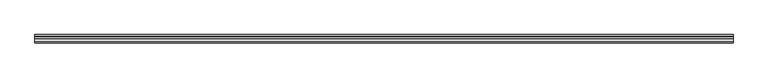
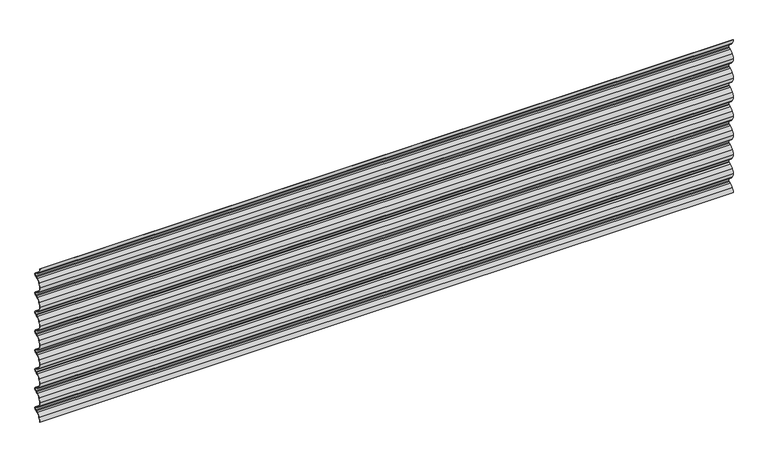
"""IFC4 building model written with IfcOpenShell, lengths in millimetres: plate geometry, Regolare Horizontal 712 : Regolare Horizontal 712."""

from ifc_helpers import new_model, si_unit, point, frame, frame_2d, origin, place, context, project, spatial, polyline, circle_curve, trimmed, segment, composite_curve, outline, extrude, source, transform, mapped, element, save


def plate_24f3a5ca(model_context):
    return source(origin(), model_context, "Body", "SweptSolid", [
        extrude(outline(composite_curve([segment(trimmed(circle_curve(frame_2d((38.4503244, 0.0)), 37.4503244), [point((6.5021495, 19.5407501))], [point((1.0, 0.0))], True, "CARTESIAN"), True, "CONTINUOUS"), segment(polyline([(1.0, 0.0), (0.0, 0.0)]), True, "CONTINUOUS"), segment(trimmed(circle_curve(frame_2d((38.4503244, 0.0)), 38.4503244), [point((0.0, 0.0))], [point((5.6490681, 20.062528))], False, "CARTESIAN"), True, "CONTINUOUS"), segment(trimmed(circle_curve(frame_2d((32.6206681, 3.5656452)), 31.6166783), [point((5.6490681, 20.062528))], [point((20.878867, 32.9211295))], False, "CARTESIAN"), True, "CONTINUOUS"), segment(polyline([(20.878867, 32.9211295), (28.0423924, 35.7903512), (31.4771017, 37.4367049)]), True, "CONTINUOUS"), segment(trimmed(circle_curve(frame_2d((28.0791236, 44.5257445)), 7.8613445), [point((31.4771017, 37.4367049))], [point((35.9404682, 44.5257445))], True, "CARTESIAN"), True, "CONTINUOUS"), segment(trimmed(circle_curve(frame_2d((28.0791236, 44.5257445)), 7.8613445), [point((35.9404682, 44.5257445))], [point((31.4771017, 51.6147842))], True, "CARTESIAN"), True, "CONTINUOUS"), segment(polyline([(31.4771017, 51.6147842), (28.0423924, 53.2611379), (20.878867, 56.1303596)]), True, "CONTINUOUS"), segment(trimmed(circle_curve(frame_2d((32.6206681, 85.4858438)), 31.6166783), [point((20.878867, 56.1303596))], [point((5.6490681, 68.9889611))], False, "CARTESIAN"), True, "CONTINUOUS"), segment(trimmed(circle_curve(frame_2d((38.4503244, 89.0514891)), 38.4503244), [point((5.6490681, 68.9889611))], [point((0.0, 89.0514891))], False, "CARTESIAN"), True, "CONTINUOUS"), segment(trimmed(circle_curve(frame_2d((38.4503244, 89.0514891)), 38.4503244), [point((0.0, 89.0514891))], [point((5.6490681, 109.1140171))], False, "CARTESIAN"), True, "CONTINUOUS"), segment(trimmed(circle_curve(frame_2d((32.6206681, 92.6171343)), 31.6166783), [point((5.6490681, 109.1140171))], [point((20.878867, 121.9726185))], False, "CARTESIAN"), True, "CONTINUOUS"), segment(polyline([(20.878867, 121.9726185), (28.0423924, 124.8418403), (31.4771017, 126.488194)]), True, "CONTINUOUS"), segment(trimmed(circle_curve(frame_2d((28.0791236, 133.5772336)), 7.8613445), [point((31.4771017, 126.488194))], [point((31.4771017, 140.6662733))], True, "CARTESIAN"), True, "CONTINUOUS"), segment(polyline([(31.4771017, 140.6662733), (28.0423924, 142.312627), (20.878867, 145.1818487)]), True, "CONTINUOUS"), segment(trimmed(circle_curve(frame_2d((32.6206681, 174.5373329)), 31.6166783), [point((20.878867, 145.1818487))], [point((5.6490681, 158.0404502))], False, "CARTESIAN"), True, "CONTINUOUS"), segment(trimmed(circle_curve(frame_2d((38.4503244, 178.1029782)), 38.4503244), [point((5.6490681, 158.0404502))], [point((0.0, 178.1029782))], False, "CARTESIAN"), True, "CONTINUOUS"), segment(trimmed(circle_curve(frame_2d((38.4503244, 178.1029782)), 38.4503244), [point((0.0, 178.1029782))], [point((5.6490681, 198.1655062))], False, "CARTESIAN"), True, "CONTINUOUS"), segment(trimmed(circle_curve(frame_2d((32.6206681, 181.6686234)), 31.6166783), [point((5.6490681, 198.1655062))], [point((20.878867, 211.0241076))], False, "CARTESIAN"), True, "CONTINUOUS"), segment(polyline([(20.878867, 211.0241076), (28.0423924, 213.8933293), (31.4771017, 215.5396831)]), True, "CONTINUOUS"), segment(trimmed(circle_curve(frame_2d((28.0791236, 222.6287227)), 7.8613445), [point((31.4771017, 215.5396831))], [point((31.4771017, 229.7177623))], True, "CARTESIAN"), True, "CONTINUOUS"), segment(polyline([(31.4771017, 229.7177623), (28.0423924, 231.3641161), (20.878867, 234.2333378)]), True, "CONTINUOUS"), segment(trimmed(circle_curve(frame_2d((32.6206681, 263.588822)), 31.6166783), [point((20.878867, 234.2333378))], [point((5.6490681, 247.0919392))], False, "CARTESIAN"), True, "CONTINUOUS"), segment(trimmed(circle_curve(frame_2d((38.4503244, 267.1544672)), 38.4503244), [point((5.6490681, 247.0919392))], [point((0.0, 267.1544672))], False, "CARTESIAN"), True, "CONTINUOUS"), segment(trimmed(circle_curve(frame_2d((38.4503244, 267.1544672)), 38.4503244), [point((0.0, 267.1544672))], [point((5.6490681, 287.2169952))], False, "CARTESIAN"), True, "CONTINUOUS"), segment(trimmed(circle_curve(frame_2d((32.6206681, 270.7201125)), 31.6166783), [point((5.6490681, 287.2169952))], [point((20.878867, 300.0755967))], False, "CARTESIAN"), True, "CONTINUOUS"), segment(polyline([(20.878867, 300.0755967), (28.0423924, 302.9448184), (31.4771017, 304.5911721)]), True, "CONTINUOUS"), segment(trimmed(circle_curve(frame_2d((28.0791236, 311.6802118)), 7.8613445), [point((31.4771017, 304.5911721))], [point((31.4771017, 318.7692514))], True, "CARTESIAN"), True, "CONTINUOUS"), segment(polyline([(31.4771017, 318.7692514), (28.0423924, 320.4156051), (20.878867, 323.2848269)]), True, "CONTINUOUS"), segment(trimmed(circle_curve(frame_2d((32.6206681, 352.6403111)), 31.6166783), [point((20.878867, 323.2848269))], [point((5.6490681, 336.1434283))], False, "CARTESIAN"), True, "CONTINUOUS"), segment(trimmed(circle_curve(frame_2d((38.4503244, 356.2059563)), 38.4503244), [point((5.6490681, 336.1434283))], [point((0.0, 356.2059563))], False, "CARTESIAN"), True, "CONTINUOUS"), segment(trimmed(circle_curve(frame_2d((38.4503244, 356.2059563)), 38.4503244), [point((0.0, 356.2059563))], [point((5.6490681, 376.2684843))], False, "CARTESIAN"), True, "CONTINUOUS"), segment(trimmed(circle_curve(frame_2d((32.6206681, 359.7716016)), 31.6166783), [point((5.6490681, 376.2684843))], [point((20.878867, 389.1270858))], False, "CARTESIAN"), True, "CONTINUOUS"), segment(polyline([(20.878867, 389.1270858), (28.0423924, 391.9963075), (31.4771017, 393.6426612)]), True, "CONTINUOUS"), segment(trimmed(circle_curve(frame_2d((28.0791236, 400.7317009)), 7.8613445), [point((31.4771017, 393.6426612))], [point((31.4771017, 407.8207405))], True, "CARTESIAN"), True, "CONTINUOUS"), segment(polyline([(31.4771017, 407.8207405), (28.0423924, 409.4670942), (20.878867, 412.3363159)]), True, "CONTINUOUS"), segment(trimmed(circle_curve(frame_2d((32.6206681, 441.6918002)), 31.6166783), [point((20.878867, 412.3363159))], [point((5.6490681, 425.1949174))], False, "CARTESIAN"), True, "CONTINUOUS"), segment(trimmed(circle_curve(frame_2d((38.4503244, 445.2574454)), 38.4503244), [point((5.6490681, 425.1949174))], [point((0.0, 445.2574454))], False, "CARTESIAN"), True, "CONTINUOUS"), segment(trimmed(circle_curve(frame_2d((38.4503244, 445.2574454)), 38.4503244), [point((0.0, 445.2574454))], [point((5.6490681, 465.3199734))], False, "CARTESIAN"), True, "CONTINUOUS"), segment(trimmed(circle_curve(frame_2d((32.6206681, 448.8230907)), 31.6166783), [point((5.6490681, 465.3199734))], [point((20.878867, 478.1785749))], False, "CARTESIAN"), True, "CONTINUOUS"), segment(polyline([(20.878867, 478.1785749), (28.0423924, 481.0477966), (31.4771017, 482.6941503)]), True, "CONTINUOUS"), segment(trimmed(circle_curve(frame_2d((28.0791236, 489.7831899)), 7.8613445), [point((31.4771017, 482.6941503))], [point((31.4771017, 496.8722296))], True, "CARTESIAN"), True, "CONTINUOUS"), segment(polyline([(31.4771017, 496.8722296), (28.0423924, 498.5185833), (20.878867, 501.387805)]), True, "CONTINUOUS"), segment(trimmed(circle_curve(frame_2d((32.6206681, 530.7432892)), 31.6166783), [point((20.878867, 501.387805))], [point((5.6490681, 514.2464065))], False, "CARTESIAN"), True, "CONTINUOUS"), segment(trimmed(circle_curve(frame_2d((38.4503244, 534.3089345)), 38.4503244), [point((5.6490681, 514.2464065))], [point((0.0, 534.3089345))], False, "CARTESIAN"), True, "CONTINUOUS"), segment(trimmed(circle_curve(frame_2d((38.4503244, 534.3089345)), 38.4503244), [point((0.0, 534.3089345))], [point((5.6490681, 554.3714625))], False, "CARTESIAN"), True, "CONTINUOUS"), segment(trimmed(circle_curve(frame_2d((32.6206681, 537.8745797)), 31.6166783), [point((5.6490681, 554.3714625))], [point((20.878867, 567.230064))], False, "CARTESIAN"), True, "CONTINUOUS"), segment(polyline([(20.878867, 567.230064), (28.0423924, 570.0992857), (31.4771017, 571.7456394)]), True, "CONTINUOUS"), segment(trimmed(circle_curve(frame_2d((28.0791236, 578.834679)), 7.8613445), [point((31.4771017, 571.7456394))], [point((31.4771017, 585.9237187))], True, "CARTESIAN"), True, "CONTINUOUS"), segment(polyline([(31.4771017, 585.9237187), (28.0423924, 587.5700724), (20.878867, 590.4392941)]), True, "CONTINUOUS"), segment(trimmed(circle_curve(frame_2d((32.6206681, 619.7947783)), 31.6166783), [point((20.878867, 590.4392941))], [point((5.6490681, 603.2978956))], False, "CARTESIAN"), True, "CONTINUOUS"), segment(trimmed(circle_curve(frame_2d((38.4503244, 623.3604236)), 38.4503244), [point((5.6490681, 603.2978956))], [point((0.0, 623.3604236))], False, "CARTESIAN"), True, "CONTINUOUS"), segment(trimmed(circle_curve(frame_2d((38.4503244, 623.3604236)), 38.4503244), [point((0.0, 623.3604236))], [point((5.6490681, 643.4229516))], False, "CARTESIAN"), True, "CONTINUOUS"), segment(trimmed(circle_curve(frame_2d((32.6206681, 626.9260688)), 31.6166783), [point((5.6490681, 643.4229516))], [point((20.878867, 656.281553))], False, "CARTESIAN"), True, "CONTINUOUS"), segment(polyline([(20.878867, 656.281553), (28.0423924, 659.1507748), (31.4771017, 660.7971285)]), True, "CONTINUOUS"), segment(trimmed(circle_curve(frame_2d((28.0791236, 667.8861681)), 7.8613445), [point((31.4771017, 660.7971285))], [point((31.4771017, 674.9752077))], True, "CARTESIAN"), True, "CONTINUOUS"), segment(polyline([(31.4771017, 674.9752077), (28.0423924, 676.6215615), (20.878867, 679.4907832)]), True, "CONTINUOUS"), segment(trimmed(circle_curve(frame_2d((32.6206681, 708.8462674)), 31.6166783), [point((20.878867, 679.4907832))], [point((5.6490681, 692.3493846))], False, "CARTESIAN"), True, "CONTINUOUS"), segment(trimmed(circle_curve(frame_2d((38.4503244, 712.4119126)), 38.4503244), [point((5.6490681, 692.3493846))], [point((0.0, 712.4119126))], False, "CARTESIAN"), True, "CONTINUOUS"), segment(polyline([(0.0, 712.4119126), (1.0, 712.4119126)]), True, "CONTINUOUS"), segment(trimmed(circle_curve(frame_2d((38.4503244, 712.4119126)), 37.4503244), [point((1.0, 712.4119126))], [point((6.5021495, 692.8711625))], True, "CARTESIAN"), True, "CONTINUOUS"), segment(trimmed(circle_curve(frame_2d((32.6206681, 708.8462674)), 30.6166783), [point((6.5021495, 692.8711625))], [point((21.2504634, 680.4191776))], True, "CARTESIAN"), True, "CONTINUOUS"), segment(polyline([(21.2504634, 680.4191776), (28.4448583, 677.5375917), (31.9093405, 675.8769669)]), True, "CONTINUOUS"), segment(trimmed(circle_curve(frame_2d((28.0791236, 667.8861681)), 8.8613445), [point((31.9093405, 675.8769669))], [point((31.9093405, 659.8953693))], False, "CARTESIAN"), True, "CONTINUOUS"), segment(polyline([(31.9093405, 659.8953693), (28.4448583, 658.2347446), (21.2504634, 655.3531587)]), True, "CONTINUOUS"), segment(trimmed(circle_curve(frame_2d((32.6206681, 626.9260688)), 30.6166783), [point((21.2504634, 655.3531587))], [point((6.5021495, 642.9011737))], True, "CARTESIAN"), True, "CONTINUOUS"), segment(trimmed(circle_curve(frame_2d((38.4503244, 623.3604236)), 37.4503244), [point((6.5021495, 642.9011737))], [point((1.0, 623.3604236))], True, "CARTESIAN"), True, "CONTINUOUS"), segment(trimmed(circle_curve(frame_2d((38.4503244, 623.3604236)), 37.4503244), [point((1.0, 623.3604236))], [point((6.5021495, 603.8196734))], True, "CARTESIAN"), True, "CONTINUOUS"), segment(trimmed(circle_curve(frame_2d((32.6206681, 619.7947783)), 30.6166783), [point((6.5021495, 603.8196734))], [point((21.2504634, 591.3676885))], True, "CARTESIAN"), True, "CONTINUOUS"), segment(polyline([(21.2504634, 591.3676885), (28.4448583, 588.4861026), (31.9093405, 586.8254778)]), True, "CONTINUOUS"), segment(trimmed(circle_curve(frame_2d((28.0791236, 578.834679)), 8.8613445), [point((31.9093405, 586.8254778))], [point((31.9093405, 570.8438802))], False, "CARTESIAN"), True, "CONTINUOUS"), segment(polyline([(31.9093405, 570.8438802), (28.4448583, 569.1832555), (21.2504634, 566.3016696)]), True, "CONTINUOUS"), segment(trimmed(circle_curve(frame_2d((32.6206681, 537.8745797)), 30.6166783), [point((21.2504634, 566.3016696))], [point((6.5021495, 553.8496846))], True, "CARTESIAN"), True, "CONTINUOUS"), segment(trimmed(circle_curve(frame_2d((38.4503244, 534.3089345)), 37.4503244), [point((6.5021495, 553.8496846))], [point((1.0, 534.3089345))], True, "CARTESIAN"), True, "CONTINUOUS"), segment(trimmed(circle_curve(frame_2d((38.4503244, 534.3089345)), 37.4503244), [point((1.0, 534.3089345))], [point((6.5021495, 514.7681843))], True, "CARTESIAN"), True, "CONTINUOUS"), segment(trimmed(circle_curve(frame_2d((32.6206681, 530.7432892)), 30.6166783), [point((6.5021495, 514.7681843))], [point((21.2504634, 502.3161994))], True, "CARTESIAN"), True, "CONTINUOUS"), segment(polyline([(21.2504634, 502.3161994), (28.4448583, 499.4346135), (31.9093405, 497.7739888)]), True, "CONTINUOUS"), segment(trimmed(circle_curve(frame_2d((28.0791236, 489.7831899)), 8.8613445), [point((31.9093405, 497.7739888))], [point((31.9093405, 481.7923911))], False, "CARTESIAN"), True, "CONTINUOUS"), segment(polyline([(31.9093405, 481.7923911), (28.4448583, 480.1317664), (21.2504634, 477.2501805)]), True, "CONTINUOUS"), segment(trimmed(circle_curve(frame_2d((32.6206681, 448.8230907)), 30.6166783), [point((21.2504634, 477.2501805))], [point((6.5021495, 464.7981955))], True, "CARTESIAN"), True, "CONTINUOUS"), segment(trimmed(circle_curve(frame_2d((38.4503244, 445.2574454)), 37.4503244), [point((6.5021495, 464.7981955))], [point((1.0, 445.2574454))], True, "CARTESIAN"), True, "CONTINUOUS"), segment(trimmed(circle_curve(frame_2d((38.4503244, 445.2574454)), 37.4503244), [point((1.0, 445.2574454))], [point((6.5021495, 425.7166953))], True, "CARTESIAN"), True, "CONTINUOUS"), segment(trimmed(circle_curve(frame_2d((32.6206681, 441.6918002)), 30.6166783), [point((6.5021495, 425.7166953))], [point((21.2504634, 413.2647103))], True, "CARTESIAN"), True, "CONTINUOUS"), segment(polyline([(21.2504634, 413.2647103), (28.4448583, 410.3831244), (31.9093405, 408.7224997)]), True, "CONTINUOUS"), segment(trimmed(circle_curve(frame_2d((28.0791236, 400.7317009)), 8.8613445), [point((31.9093405, 408.7224997))], [point((31.9093405, 392.740902))], False, "CARTESIAN"), True, "CONTINUOUS"), segment(polyline([(31.9093405, 392.740902), (28.4448583, 391.0802773), (21.2504634, 388.1986914)]), True, "CONTINUOUS"), segment(trimmed(circle_curve(frame_2d((32.6206681, 359.7716016)), 30.6166783), [point((21.2504634, 388.1986914))], [point((6.5021495, 375.7467065))], True, "CARTESIAN"), True, "CONTINUOUS"), segment(trimmed(circle_curve(frame_2d((38.4503244, 356.2059563)), 37.4503244), [point((6.5021495, 375.7467065))], [point((1.0, 356.2059563))], True, "CARTESIAN"), True, "CONTINUOUS"), segment(trimmed(circle_curve(frame_2d((38.4503244, 356.2059563)), 37.4503244), [point((1.0, 356.2059563))], [point((6.5021495, 336.6652062))], True, "CARTESIAN"), True, "CONTINUOUS"), segment(trimmed(circle_curve(frame_2d((32.6206681, 352.6403111)), 30.6166783), [point((6.5021495, 336.6652062))], [point((21.2504634, 324.2132212))], True, "CARTESIAN"), True, "CONTINUOUS"), segment(polyline([(21.2504634, 324.2132212), (28.4448583, 321.3316353), (31.9093405, 319.6710106)]), True, "CONTINUOUS"), segment(trimmed(circle_curve(frame_2d((28.0791236, 311.6802118)), 8.8613445), [point((31.9093405, 319.6710106))], [point((31.9093405, 303.689413))], False, "CARTESIAN"), True, "CONTINUOUS"), segment(polyline([(31.9093405, 303.689413), (28.4448583, 302.0287882), (21.2504634, 299.1472023)]), True, "CONTINUOUS"), segment(trimmed(circle_curve(frame_2d((32.6206681, 270.7201125)), 30.6166783), [point((21.2504634, 299.1472023))], [point((6.5021495, 286.6952174))], True, "CARTESIAN"), True, "CONTINUOUS"), segment(trimmed(circle_curve(frame_2d((38.4503244, 267.1544672)), 37.4503244), [point((6.5021495, 286.6952174))], [point((1.0, 267.1544672))], True, "CARTESIAN"), True, "CONTINUOUS"), segment(trimmed(circle_curve(frame_2d((38.4503244, 267.1544672)), 37.4503244), [point((1.0, 267.1544672))], [point((6.5021495, 247.6137171))], True, "CARTESIAN"), True, "CONTINUOUS"), segment(trimmed(circle_curve(frame_2d((32.6206681, 263.588822)), 30.6166783), [point((6.5021495, 247.6137171))], [point((21.2504634, 235.1617322))], True, "CARTESIAN"), True, "CONTINUOUS"), segment(polyline([(21.2504634, 235.1617322), (28.4448583, 232.2801463), (31.9093405, 230.6195215)]), True, "CONTINUOUS"), segment(trimmed(circle_curve(frame_2d((28.0791236, 222.6287227)), 8.8613445), [point((31.9093405, 230.6195215))], [point((31.9093405, 214.6379239))], False, "CARTESIAN"), True, "CONTINUOUS"), segment(polyline([(31.9093405, 214.6379239), (28.4448583, 212.9772992), (21.2504634, 210.0957133)]), True, "CONTINUOUS"), segment(trimmed(circle_curve(frame_2d((32.6206681, 181.6686234)), 30.6166783), [point((21.2504634, 210.0957133))], [point((6.5021495, 197.6437283))], True, "CARTESIAN"), True, "CONTINUOUS"), segment(trimmed(circle_curve(frame_2d((38.4503244, 178.1029782)), 37.4503244), [point((6.5021495, 197.6437283))], [point((1.0, 178.1029782))], True, "CARTESIAN"), True, "CONTINUOUS"), segment(trimmed(circle_curve(frame_2d((38.4503244, 178.1029782)), 37.4503244), [point((1.0, 178.1029782))], [point((6.5021495, 158.562228))], True, "CARTESIAN"), True, "CONTINUOUS"), segment(trimmed(circle_curve(frame_2d((32.6206681, 174.5373329)), 30.6166783), [point((6.5021495, 158.562228))], [point((21.2504634, 146.1102431))], True, "CARTESIAN"), True, "CONTINUOUS"), segment(polyline([(21.2504634, 146.1102431), (28.4448583, 143.2286572), (31.9093405, 141.5680324)]), True, "CONTINUOUS"), segment(trimmed(circle_curve(frame_2d((28.0791236, 133.5772336)), 8.8613445), [point((31.9093405, 141.5680324))], [point((31.9093405, 125.5864348))], False, "CARTESIAN"), True, "CONTINUOUS"), segment(polyline([(31.9093405, 125.5864348), (28.4448583, 123.9258101), (21.2504634, 121.0442242)]), True, "CONTINUOUS"), segment(trimmed(circle_curve(frame_2d((32.6206681, 92.6171343)), 30.6166783), [point((21.2504634, 121.0442242))], [point((6.5021495, 108.5922392))], True, "CARTESIAN"), True, "CONTINUOUS"), segment(trimmed(circle_curve(frame_2d((38.4503244, 89.0514891)), 37.4503244), [point((6.5021495, 108.5922392))], [point((1.0, 89.0514891))], True, "CARTESIAN"), True, "CONTINUOUS"), segment(trimmed(circle_curve(frame_2d((38.4503244, 89.0514891)), 37.4503244), [point((1.0, 89.0514891))], [point((6.5021495, 69.5107389))], True, "CARTESIAN"), True, "CONTINUOUS"), segment(trimmed(circle_curve(frame_2d((32.6206681, 85.4858438)), 30.6166783), [point((6.5021495, 69.5107389))], [point((21.2504634, 57.058754))], True, "CARTESIAN"), True, "CONTINUOUS"), segment(polyline([(21.2504634, 57.058754), (28.4448583, 54.1771681), (31.9093405, 52.5165434)]), True, "CONTINUOUS"), segment(trimmed(circle_curve(frame_2d((28.0791236, 44.5257445)), 8.8613445), [point((31.9093405, 52.5165434))], [point((36.9404682, 44.5257445))], False, "CARTESIAN"), True, "CONTINUOUS"), segment(trimmed(circle_curve(frame_2d((28.0791236, 44.5257445)), 8.8613445), [point((36.9404682, 44.5257445))], [point((31.9093405, 36.5349457))], False, "CARTESIAN"), True, "CONTINUOUS"), segment(polyline([(31.9093405, 36.5349457), (28.4448583, 34.874321), (21.2504634, 31.9927351)]), True, "CONTINUOUS"), segment(trimmed(circle_curve(frame_2d((32.6206681, 3.5656452)), 30.6166783), [point((21.2504634, 31.9927351))], [point((6.5021495, 19.5407501))], True, "CARTESIAN"), True, "CONTINUOUS")], self_intersect=False)), frame((-1524.5, 0.0, 0.0), z_axis=(1.0, 0.0, 0.0), x_axis=(0.0, 1.0, 0.0)), (0.0, 0.0, 1.0), 3049.0),
    ])


if __name__ == "__main__":
    model = new_model("IFC4")
    model_context = context("Model", 3, world=origin())
    ifc_project = project(units=[si_unit("LENGTHUNIT", "METRE", prefix="MILLI")], contexts=[model_context])
    site = spatial("IfcSite", under=ifc_project)
    building = spatial("IfcBuilding", under=site)
    placement = place(None, origin())
    plate_shape = plate_24f3a5ca(model_context)
    element("IfcPlate", 1, ObjectType="Regolare Horizontal 712 : Regolare Horizontal 712", at=placement, inside=building, context=model_context, shape_type="MappedRepresentation", body=[
        mapped(plate_shape, transform((0.0, 0.0, 0.0), x_axis=(1.0, 0.0, 0.0), y_axis=(0.0, 1.0, 0.0), z_axis=(0.0, 0.0, 1.0))),
    ])
    save(model, "model.ifc")
